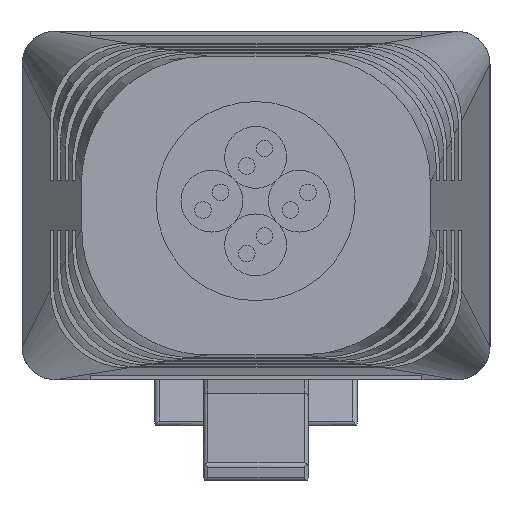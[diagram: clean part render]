
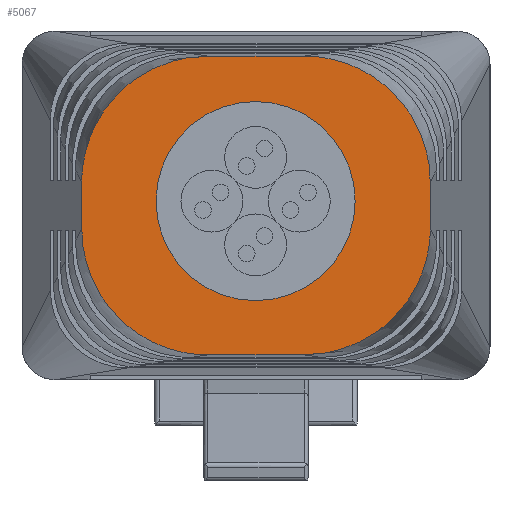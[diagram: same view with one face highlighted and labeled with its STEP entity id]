
A CAD part, left-side view. The second image highlights one B-rep face of the part: STEP entity #5067.
In plain terms, the highlighted planar face has unit normal (-1, 0, 0) as drawn and (0, 0, 1) by its records, which use the part's own axes.
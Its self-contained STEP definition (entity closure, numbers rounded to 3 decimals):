
#695 = DIRECTION ( 'NONE',  ( 1., 0., 0. ) ) ;
#772 = ORIENTED_EDGE ( 'NONE', *, *, #20087, .T. ) ;
#1039 = VERTEX_POINT ( 'NONE', #4697 ) ;
#1239 = CARTESIAN_POINT ( 'NONE',  ( 2.159, -4.476, 28.2 ) ) ;
#1660 = B_SPLINE_CURVE_WITH_KNOTS ( 'NONE', 3,
 ( #23252, #3942, #1239, #25408, #16389, #1794, #14806, #9952, #18955, #10089, #27703 ),
 .UNSPECIFIED., .F., .F.,
 ( 4, 1, 1, 1, 1, 1, 1, 1, 4 ),
 ( 0., 0.001, 0.002, 0.003, 0.003, 0.004, 0.005, 0.005, 0.006 ),
 .UNSPECIFIED. ) ;
#1778 = CARTESIAN_POINT ( 'NONE',  ( -5.25, -0.8, 28.2 ) ) ;
#1794 = CARTESIAN_POINT ( 'NONE',  ( 4.664, -2.83, 28.2 ) ) ;
#2078 = CARTESIAN_POINT ( 'NONE',  ( 5.25, 0.8, 28.2 ) ) ;
#2195 = CARTESIAN_POINT ( 'NONE',  ( -3.891, -3.689, 28.2 ) ) ;
#2271 = VERTEX_POINT ( 'NONE', #26897 ) ;
#2336 = CARTESIAN_POINT ( 'NONE',  ( -1.747, -4.495, 28.2 ) ) ;
#2471 = CARTESIAN_POINT ( 'NONE',  ( -5.25, 0.7, 28.2 ) ) ;
#2938 = CARTESIAN_POINT ( 'NONE',  ( 1.747, 4.495, 28.2 ) ) ;
#3529 = VERTEX_POINT ( 'NONE', #24749 ) ;
#3857 = CARTESIAN_POINT ( 'NONE',  ( -5.25, 0.75, 28.2 ) ) ;
#3942 = CARTESIAN_POINT ( 'NONE',  ( 1.657, -4.5, 28.2 ) ) ;
#3989 = CARTESIAN_POINT ( 'NONE',  ( -4.664, 2.83, 28.2 ) ) ;
#4191 = CARTESIAN_POINT ( 'NONE',  ( -1.45, -4.5, 28.2 ) ) ;
#4220 = CARTESIAN_POINT ( 'NONE',  ( 5.033, 2.033, 28.2 ) ) ;
#4223 = EDGE_CURVE ( 'NONE', #2271, #3529, #14322, .T. ) ;
#4472 = CARTESIAN_POINT ( 'NONE',  ( -5.25, -0.7, 28.2 ) ) ;
#4697 = CARTESIAN_POINT ( 'NONE',  ( -1.45, 4.5, 28.2 ) ) ;
#4828 = PLANE ( 'NONE',  #13964 ) ;
#5067 = ADVANCED_FACE ( 'NONE', ( #18262 ), #4828, .T. ) ;
#5078 = CARTESIAN_POINT ( 'NONE',  ( 1.45, 4.5, 28.2 ) ) ;
#5994 = CARTESIAN_POINT ( 'NONE',  ( -3.088, 4.159, 28.2 ) ) ;
#6045 = ORIENTED_EDGE ( 'NONE', *, *, #21292, .T. ) ;
#6358 = CARTESIAN_POINT ( 'NONE',  ( 5.25, 0.7, 28.2 ) ) ;
#7065 = CARTESIAN_POINT ( 'NONE',  ( 2.24, 4.429, 28.2 ) ) ;
#8119 = VECTOR ( 'NONE', #20403, 1000. ) ;
#8294 = EDGE_LOOP ( 'NONE', ( #16368, #14738, #15914, #20346, #16053, #772, #6045, #27744 ) ) ;
#8347 = CARTESIAN_POINT ( 'NONE',  ( -1.554, -4.5, 28.2 ) ) ;
#8945 = CARTESIAN_POINT ( 'NONE',  ( 5.25, -0.7, 28.2 ) ) ;
#9952 = CARTESIAN_POINT ( 'NONE',  ( 5.215, -1.268, 28.2 ) ) ;
#10089 = CARTESIAN_POINT ( 'NONE',  ( 5.25, -0.75, 28.2 ) ) ;
#10135 = EDGE_CURVE ( 'NONE', #18664, #18096, #12955, .T. ) ;
#10558 = CARTESIAN_POINT ( 'NONE',  ( -5.215, 1.268, 28.2 ) ) ;
#10796 = CARTESIAN_POINT ( 'NONE',  ( 2.926, 4.254, 28.2 ) ) ;
#11547 = DIRECTION ( 'NONE',  ( 0., 0., 1. ) ) ;
#12709 = CARTESIAN_POINT ( 'NONE',  ( -5.25, 0.7, 28.2 ) ) ;
#12891 = EDGE_CURVE ( 'NONE', #23050, #18664, #17687, .T. ) ;
#12942 = CARTESIAN_POINT ( 'NONE',  ( 4.664, 2.83, 28.2 ) ) ;
#12955 = B_SPLINE_CURVE_WITH_KNOTS ( 'NONE', 3,
 ( #4472, #1778, #13048, #19206, #21911, #2195, #27823, #21492, #2336, #8347, #19074 ),
 .UNSPECIFIED., .F., .F.,
 ( 4, 1, 1, 1, 1, 1, 1, 1, 4 ),
 ( 0., 0.001, 0.002, 0.003, 0.003, 0.004, 0.005, 0.005, 0.006 ),
 .UNSPECIFIED. ) ;
#13048 = CARTESIAN_POINT ( 'NONE',  ( -5.252, -1.188, 28.2 ) ) ;
#13245 = LINE ( 'NONE', #21977, #14364 ) ;
#13392 = DIRECTION ( 'NONE',  ( 0., -1., 0. ) ) ;
#13655 = EDGE_CURVE ( 'NONE', #3529, #1039, #22166, .T. ) ;
#13964 = AXIS2_PLACEMENT_3D ( 'NONE', #16269, #11547, #695 ) ;
#14035 = EDGE_CURVE ( 'NONE', #1039, #23050, #22676, .T. ) ;
#14322 = B_SPLINE_CURVE_WITH_KNOTS ( 'NONE', 3,
 ( #6358, #2078, #15084, #4220, #12942, #28257, #10796, #7065, #2938, #20220, #5078 ),
 .UNSPECIFIED., .F., .F.,
 ( 4, 1, 1, 1, 1, 1, 1, 1, 4 ),
 ( 0., 0.001, 0.002, 0.003, 0.003, 0.004, 0.005, 0.005, 0.006 ),
 .UNSPECIFIED. ) ;
#14364 = VECTOR ( 'NONE', #15113, 1000. ) ;
#14477 = VERTEX_POINT ( 'NONE', #20225 ) ;
#14721 = CARTESIAN_POINT ( 'NONE',  ( -5.106, 1.872, 28.2 ) ) ;
#14738 = ORIENTED_EDGE ( 'NONE', *, *, #13655, .T. ) ;
#14806 = CARTESIAN_POINT ( 'NONE',  ( 5.106, -1.872, 28.2 ) ) ;
#15084 = CARTESIAN_POINT ( 'NONE',  ( 5.252, 1.188, 28.2 ) ) ;
#15113 = DIRECTION ( 'NONE',  ( 0., 1., 0. ) ) ;
#15265 = VERTEX_POINT ( 'NONE', #8945 ) ;
#15914 = ORIENTED_EDGE ( 'NONE', *, *, #14035, .T. ) ;
#16053 = ORIENTED_EDGE ( 'NONE', *, *, #10135, .T. ) ;
#16269 = CARTESIAN_POINT ( 'NONE',  ( 0., 0., 28.2 ) ) ;
#16368 = ORIENTED_EDGE ( 'NONE', *, *, #4223, .T. ) ;
#16389 = CARTESIAN_POINT ( 'NONE',  ( 3.89, -3.688, 28.2 ) ) ;
#16861 = CARTESIAN_POINT ( 'NONE',  ( -2.159, 4.476, 28.2 ) ) ;
#16993 = CARTESIAN_POINT ( 'NONE',  ( -5.25, -0.7, 28.2 ) ) ;
#17687 = LINE ( 'NONE', #21972, #24792 ) ;
#17988 = CARTESIAN_POINT ( 'NONE',  ( 0., -4.5, 28.2 ) ) ;
#18096 = VERTEX_POINT ( 'NONE', #4191 ) ;
#18262 = FACE_OUTER_BOUND ( 'NONE', #8294, .T. ) ;
#18664 = VERTEX_POINT ( 'NONE', #16993 ) ;
#18955 = CARTESIAN_POINT ( 'NONE',  ( 5.25, -0.879, 28.2 ) ) ;
#19008 = CARTESIAN_POINT ( 'NONE',  ( -1.45, 4.5, 28.2 ) ) ;
#19074 = CARTESIAN_POINT ( 'NONE',  ( -1.45, -4.5, 28.2 ) ) ;
#19206 = CARTESIAN_POINT ( 'NONE',  ( -5.033, -2.033, 28.2 ) ) ;
#19876 = CARTESIAN_POINT ( 'NONE',  ( 0., 4.5, 28.2 ) ) ;
#20012 = DIRECTION ( 'NONE',  ( -1., 0., 0. ) ) ;
#20087 = EDGE_CURVE ( 'NONE', #18096, #14477, #26880, .T. ) ;
#20220 = CARTESIAN_POINT ( 'NONE',  ( 1.554, 4.5, 28.2 ) ) ;
#20225 = CARTESIAN_POINT ( 'NONE',  ( 1.45, -4.5, 28.2 ) ) ;
#20346 = ORIENTED_EDGE ( 'NONE', *, *, #12891, .T. ) ;
#20403 = DIRECTION ( 'NONE',  ( 1., 0., 0. ) ) ;
#21292 = EDGE_CURVE ( 'NONE', #14477, #15265, #1660, .T. ) ;
#21492 = CARTESIAN_POINT ( 'NONE',  ( -2.24, -4.429, 28.2 ) ) ;
#21911 = CARTESIAN_POINT ( 'NONE',  ( -4.664, -2.83, 28.2 ) ) ;
#21972 = CARTESIAN_POINT ( 'NONE',  ( -5.25, 0.7, 28.2 ) ) ;
#21977 = CARTESIAN_POINT ( 'NONE',  ( 5.25, -0.7, 28.2 ) ) ;
#22166 = LINE ( 'NONE', #19876, #24359 ) ;
#22676 = B_SPLINE_CURVE_WITH_KNOTS ( 'NONE', 3,
 ( #19008, #27757, #16861, #5994, #23859, #3989, #14721, #10558, #23448, #3857, #12709 ),
 .UNSPECIFIED., .F., .F.,
 ( 4, 1, 1, 1, 1, 1, 1, 1, 4 ),
 ( 0., 0.001, 0.002, 0.003, 0.003, 0.004, 0.005, 0.005, 0.006 ),
 .UNSPECIFIED. ) ;
#23050 = VERTEX_POINT ( 'NONE', #2471 ) ;
#23252 = CARTESIAN_POINT ( 'NONE',  ( 1.45, -4.5, 28.2 ) ) ;
#23448 = CARTESIAN_POINT ( 'NONE',  ( -5.25, 0.879, 28.2 ) ) ;
#23859 = CARTESIAN_POINT ( 'NONE',  ( -3.89, 3.688, 28.2 ) ) ;
#24359 = VECTOR ( 'NONE', #20012, 1000. ) ;
#24749 = CARTESIAN_POINT ( 'NONE',  ( 1.45, 4.5, 28.2 ) ) ;
#24792 = VECTOR ( 'NONE', #13392, 1000. ) ;
#25408 = CARTESIAN_POINT ( 'NONE',  ( 3.088, -4.159, 28.2 ) ) ;
#26880 = LINE ( 'NONE', #17988, #8119 ) ;
#26897 = CARTESIAN_POINT ( 'NONE',  ( 5.25, 0.7, 28.2 ) ) ;
#27654 = EDGE_CURVE ( 'NONE', #15265, #2271, #13245, .T. ) ;
#27703 = CARTESIAN_POINT ( 'NONE',  ( 5.25, -0.7, 28.2 ) ) ;
#27744 = ORIENTED_EDGE ( 'NONE', *, *, #27654, .T. ) ;
#27757 = CARTESIAN_POINT ( 'NONE',  ( -1.657, 4.5, 28.2 ) ) ;
#27823 = CARTESIAN_POINT ( 'NONE',  ( -2.926, -4.254, 28.2 ) ) ;
#28257 = CARTESIAN_POINT ( 'NONE',  ( 3.891, 3.689, 28.2 ) ) ;
